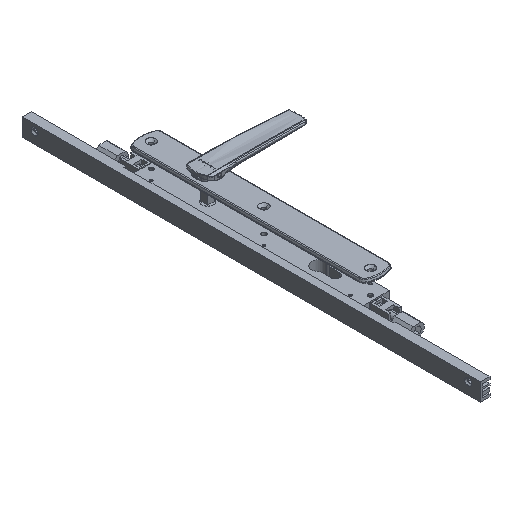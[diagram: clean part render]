
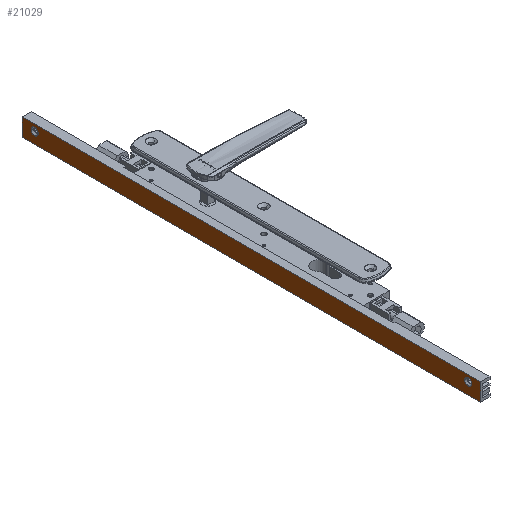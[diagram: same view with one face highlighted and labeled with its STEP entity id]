
A CAD part, isometric view. The second image highlights one B-rep face of the part: STEP entity #21029.
In plain terms, the highlighted planar face has unit normal (-1, 0, 0) as drawn and (0, 1, 0) by its records, which use the part's own axes.
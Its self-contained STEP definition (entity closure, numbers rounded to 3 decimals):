
#312 = ORIENTED_EDGE ( 'NONE', *, *, #21445, .F. ) ;
#347 = CIRCLE ( 'NONE', #23573, 4.216 ) ;
#1370 = ORIENTED_EDGE ( 'NONE', *, *, #18232, .F. ) ;
#1450 = EDGE_CURVE ( 'NONE', #23837, #11269, #347, .T. ) ;
#1469 = ORIENTED_EDGE ( 'NONE', *, *, #3366, .T. ) ;
#1879 = DIRECTION ( 'NONE',  ( 1., 0., 0. ) ) ;
#2244 = CARTESIAN_POINT ( 'NONE',  ( -1.7, 12.4, 0. ) ) ;
#2580 = CARTESIAN_POINT ( 'NONE',  ( -1.7, 12.4, 544. ) ) ;
#2587 = VECTOR ( 'NONE', #25514, 1000. ) ;
#2818 = LINE ( 'NONE', #9828, #26528 ) ;
#2943 = CARTESIAN_POINT ( 'NONE',  ( 11.8, 12.4, 15. ) ) ;
#3146 = DIRECTION ( 'NONE',  ( 0., 0., 1. ) ) ;
#3237 = DIRECTION ( 'NONE',  ( 0., 0., -1. ) ) ;
#3287 = VERTEX_POINT ( 'NONE', #2244 ) ;
#3366 = EDGE_CURVE ( 'NONE', #20285, #26188, #2818, .T. ) ;
#3470 = PLANE ( 'NONE',  #22758 ) ;
#4145 = DIRECTION ( 'NONE',  ( 0., 0., 1. ) ) ;
#4154 = CARTESIAN_POINT ( 'NONE',  ( 20.8, 12.4, 0. ) ) ;
#4402 = AXIS2_PLACEMENT_3D ( 'NONE', #22813, #8132, #3146 ) ;
#4418 = LINE ( 'NONE', #10714, #23555 ) ;
#5619 = VERTEX_POINT ( 'NONE', #28077 ) ;
#5733 = CARTESIAN_POINT ( 'NONE',  ( 20.8, 12.4, 544. ) ) ;
#5848 = EDGE_CURVE ( 'NONE', #9838, #16645, #16272, .T. ) ;
#6286 = LINE ( 'NONE', #4154, #2587 ) ;
#6842 = AXIS2_PLACEMENT_3D ( 'NONE', #17141, #23661, #4145 ) ;
#8132 = DIRECTION ( 'NONE',  ( 0., 1., 0. ) ) ;
#8189 = FACE_OUTER_BOUND ( 'NONE', #23294, .T. ) ;
#8246 = CIRCLE ( 'NONE', #25501, 4.216 ) ;
#8632 = DIRECTION ( 'NONE',  ( 0., 1., 0. ) ) ;
#9322 = DIRECTION ( 'NONE',  ( 0., 0., -1. ) ) ;
#9828 = CARTESIAN_POINT ( 'NONE',  ( 19.3, 12.4, 544. ) ) ;
#9838 = VERTEX_POINT ( 'NONE', #12065 ) ;
#10714 = CARTESIAN_POINT ( 'NONE',  ( 20.8, 12.4, 544. ) ) ;
#11054 = CARTESIAN_POINT ( 'NONE',  ( 11.8, 12.4, 15. ) ) ;
#11269 = VERTEX_POINT ( 'NONE', #20264 ) ;
#11552 = ORIENTED_EDGE ( 'NONE', *, *, #1450, .F. ) ;
#12065 = CARTESIAN_POINT ( 'NONE',  ( 11.8, 12.4, 524.784 ) ) ;
#12439 = CARTESIAN_POINT ( 'NONE',  ( 19.3, 12.4, 0. ) ) ;
#12459 = EDGE_LOOP ( 'NONE', ( #312, #13201 ) ) ;
#12989 = DIRECTION ( 'NONE',  ( -1., 0., 0. ) ) ;
#13201 = ORIENTED_EDGE ( 'NONE', *, *, #5848, .F. ) ;
#13510 = ORIENTED_EDGE ( 'NONE', *, *, #21944, .F. ) ;
#13946 = DIRECTION ( 'NONE',  ( 0., 0., 1. ) ) ;
#13988 = CARTESIAN_POINT ( 'NONE',  ( 11.8, 12.4, 533.216 ) ) ;
#14455 = DIRECTION ( 'NONE',  ( 0., -1., 0. ) ) ;
#14490 = ORIENTED_EDGE ( 'NONE', *, *, #20009, .F. ) ;
#14548 = VECTOR ( 'NONE', #9322, 1000. ) ;
#14982 = CARTESIAN_POINT ( 'NONE',  ( 19.3, 12.4, 544. ) ) ;
#15313 = EDGE_CURVE ( 'NONE', #26188, #3287, #6286, .T. ) ;
#15919 = ORIENTED_EDGE ( 'NONE', *, *, #15313, .T. ) ;
#16272 = CIRCLE ( 'NONE', #4402, 4.216 ) ;
#16645 = VERTEX_POINT ( 'NONE', #13988 ) ;
#17141 = CARTESIAN_POINT ( 'NONE',  ( 11.8, 12.4, 529. ) ) ;
#18232 = EDGE_CURVE ( 'NONE', #20285, #5619, #4418, .T. ) ;
#18654 = EDGE_LOOP ( 'NONE', ( #13510, #11552 ) ) ;
#19171 = CIRCLE ( 'NONE', #6842, 4.216 ) ;
#19182 = FACE_BOUND ( 'NONE', #18654, .T. ) ;
#20009 = EDGE_CURVE ( 'NONE', #5619, #3287, #20148, .T. ) ;
#20148 = LINE ( 'NONE', #2580, #14548 ) ;
#20264 = CARTESIAN_POINT ( 'NONE',  ( 11.8, 12.4, 19.216 ) ) ;
#20285 = VERTEX_POINT ( 'NONE', #14982 ) ;
#21029 = ADVANCED_FACE ( 'NONE', ( #19182, #27683, #8189 ), #3470, .F. ) ;
#21445 = EDGE_CURVE ( 'NONE', #16645, #9838, #19171, .T. ) ;
#21588 = CARTESIAN_POINT ( 'NONE',  ( 11.8, 12.4, 10.784 ) ) ;
#21854 = DIRECTION ( 'NONE',  ( 0., 0., 1. ) ) ;
#21944 = EDGE_CURVE ( 'NONE', #11269, #23837, #8246, .T. ) ;
#22758 = AXIS2_PLACEMENT_3D ( 'NONE', #5733, #14455, #1879 ) ;
#22813 = CARTESIAN_POINT ( 'NONE',  ( 11.8, 12.4, 529. ) ) ;
#23294 = EDGE_LOOP ( 'NONE', ( #1370, #1469, #15919, #14490 ) ) ;
#23555 = VECTOR ( 'NONE', #12989, 1000. ) ;
#23573 = AXIS2_PLACEMENT_3D ( 'NONE', #11054, #8632, #21854 ) ;
#23661 = DIRECTION ( 'NONE',  ( 0., 1., 0. ) ) ;
#23837 = VERTEX_POINT ( 'NONE', #21588 ) ;
#24605 = DIRECTION ( 'NONE',  ( 0., 1., 0. ) ) ;
#25501 = AXIS2_PLACEMENT_3D ( 'NONE', #2943, #24605, #13946 ) ;
#25514 = DIRECTION ( 'NONE',  ( -1., 0., 0. ) ) ;
#26188 = VERTEX_POINT ( 'NONE', #12439 ) ;
#26528 = VECTOR ( 'NONE', #3237, 1000. ) ;
#27683 = FACE_BOUND ( 'NONE', #12459, .T. ) ;
#28077 = CARTESIAN_POINT ( 'NONE',  ( -1.7, 12.4, 544. ) ) ;
